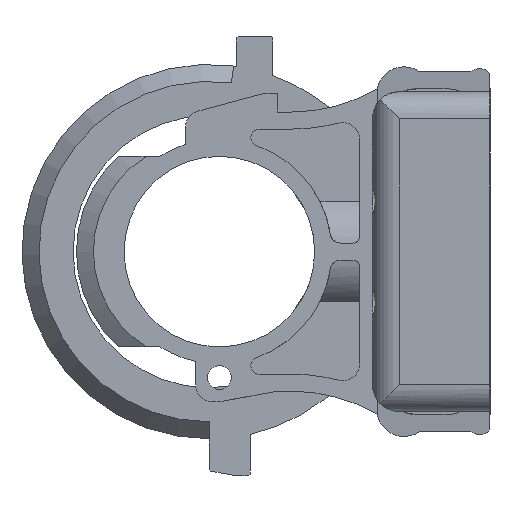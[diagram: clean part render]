
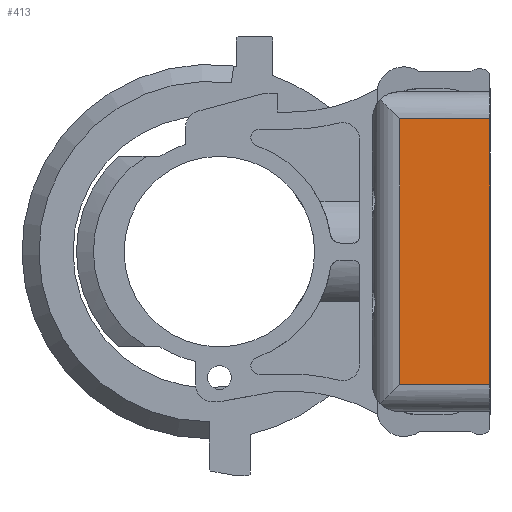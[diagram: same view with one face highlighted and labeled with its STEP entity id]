
A CAD part, left-side view. The second image highlights one B-rep face of the part: STEP entity #413.
In plain terms, the highlighted planar face has unit normal (-1, 0, 0).
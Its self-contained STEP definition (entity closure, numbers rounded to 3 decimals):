
#413 = ADVANCED_FACE( '', ( #913 ), #914, .F. );
#913 = FACE_OUTER_BOUND( '', #1550, .T. );
#914 = PLANE( '', #1551 );
#1550 = EDGE_LOOP( '', ( #2547, #2548, #2549, #2550 ) );
#1551 = AXIS2_PLACEMENT_3D( '', #2551, #2552, #2553 );
#2547 = ORIENTED_EDGE( '', *, *, #4149, .F. );
#2548 = ORIENTED_EDGE( '', *, *, #4150, .F. );
#2549 = ORIENTED_EDGE( '', *, *, #3922, .T. );
#2550 = ORIENTED_EDGE( '', *, *, #4151, .T. );
#2551 = CARTESIAN_POINT( '', ( 0., 26.55, 39. ) );
#2552 = DIRECTION( '', ( 1., 0., 0. ) );
#2553 = DIRECTION( '', ( 0., 0., -1. ) );
#3922 = EDGE_CURVE( '', #4734, #4732, #4735, .T. );
#4149 = EDGE_CURVE( '', #5103, #5104, #5105, .T. );
#4150 = EDGE_CURVE( '', #4734, #5103, #5106, .T. );
#4151 = EDGE_CURVE( '', #4732, #5104, #5107, .T. );
#4732 = VERTEX_POINT( '', #5895 );
#4734 = VERTEX_POINT( '', #5897 );
#4735 = LINE( '', #5898, #5899 );
#5103 = VERTEX_POINT( '', #6488 );
#5104 = VERTEX_POINT( '', #6489 );
#5105 = LINE( '', #6490, #6491 );
#5106 = LINE( '', #6492, #6493 );
#5107 = LINE( '', #6494, #6495 );
#5895 = CARTESIAN_POINT( '', ( 0., 26.55, -39. ) );
#5897 = CARTESIAN_POINT( '', ( 0., 26.55, 39. ) );
#5898 = CARTESIAN_POINT( '', ( 0., 26.55, 47. ) );
#5899 = VECTOR( '', #7637, 1000. );
#6488 = CARTESIAN_POINT( '', ( 0., 0., 39. ) );
#6489 = CARTESIAN_POINT( '', ( 0., 0., -39. ) );
#6490 = CARTESIAN_POINT( '', ( 0., 0., 47. ) );
#6491 = VECTOR( '', #7938, 1000. );
#6492 = CARTESIAN_POINT( '', ( 0., 34.55, 39. ) );
#6493 = VECTOR( '', #7939, 1000. );
#6494 = CARTESIAN_POINT( '', ( 0., 34.55, -39. ) );
#6495 = VECTOR( '', #7940, 1000. );
#7637 = DIRECTION( '', ( 0., 0., -1. ) );
#7938 = DIRECTION( '', ( 0., 0., -1. ) );
#7939 = DIRECTION( '', ( 0., -1., 0. ) );
#7940 = DIRECTION( '', ( 0., -1., 0. ) );
